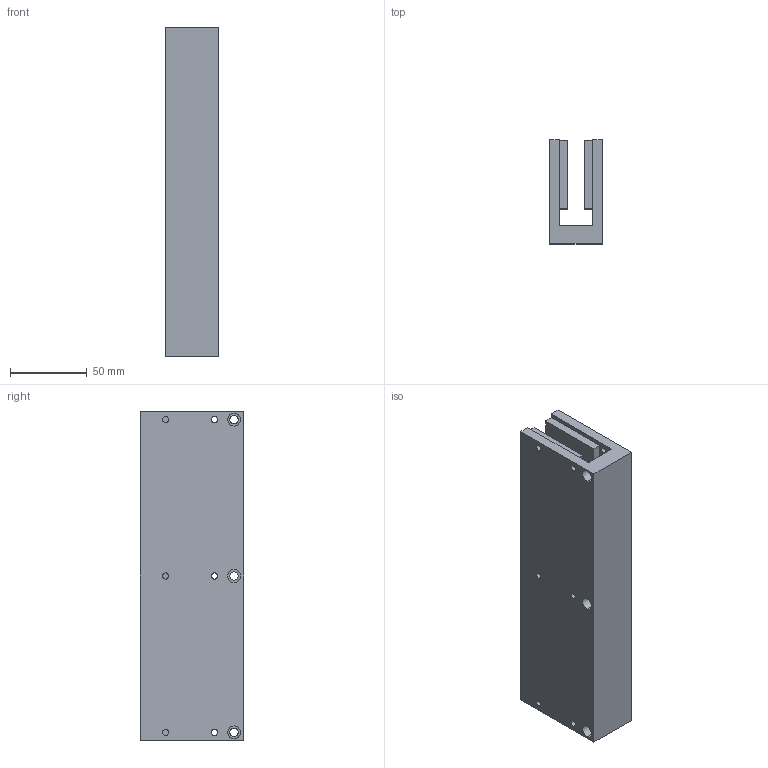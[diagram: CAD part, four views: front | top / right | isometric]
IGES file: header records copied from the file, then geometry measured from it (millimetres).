
Global section: file name: No Iges File Name specified; native system: Autodesk Inventor 2009; preprocessor: AutoDesk Inventor Iges Exporter R2009; author: je17857; date: 20091116.111441; units: inch
Bounding box: 34.29 x 67.31 x 213.36 mm (x, y, z)
Volume: 317656.3 mm3; surface area: 82943.3 mm2
Topology: 1 solids, 1 shells, 134 faces, 318 edges, 212 vertices
Faces by surface type: plane 86, bspline 48
